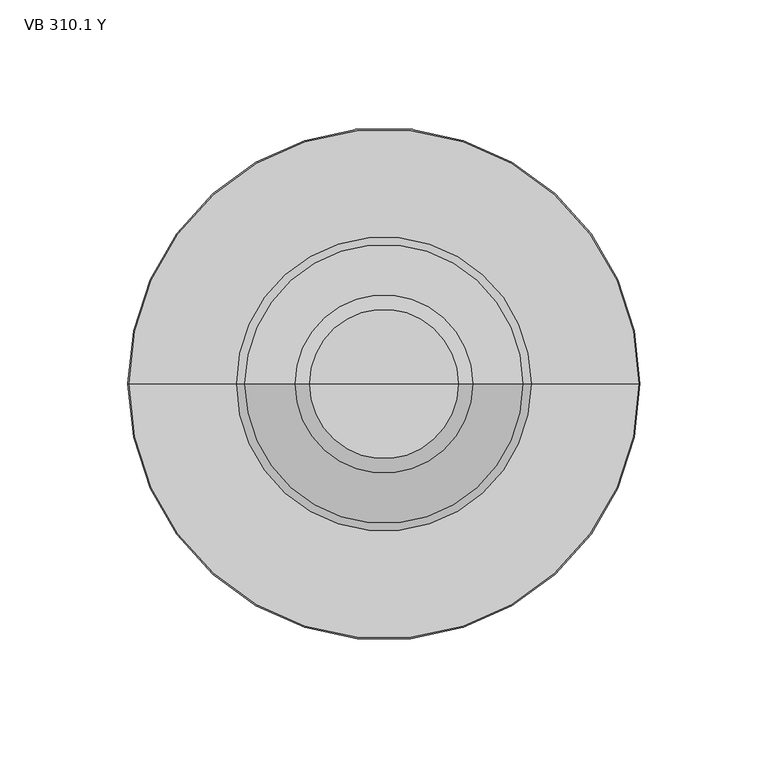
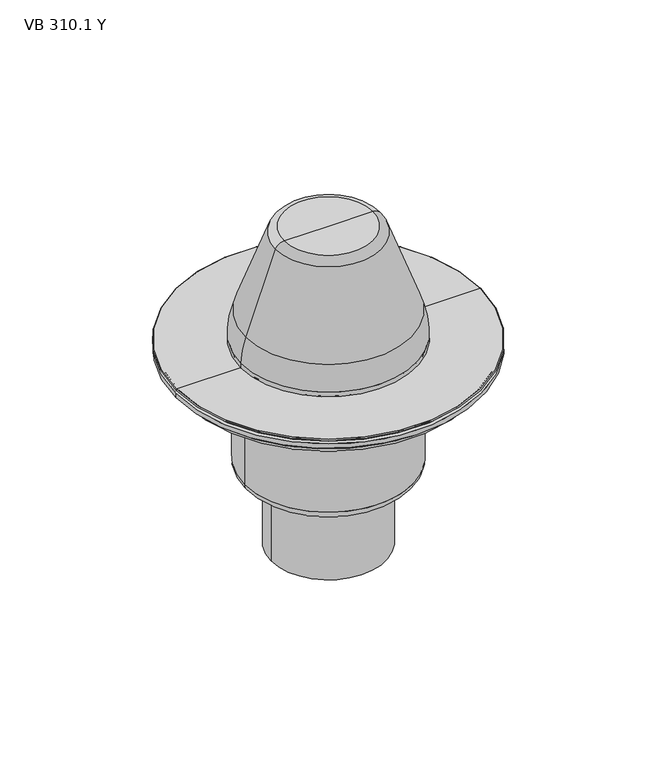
"""IFC4 building model written with IfcOpenShell, lengths in millimetres: flow terminal geometry, BIMLIB_Воронка_Балконная_Fachmann_310СВертикальнымВыпуском : VB 310.1 Y."""

from ifc_helpers import new_model, si_unit, point, frame, origin, origin_with_axes, origin_2d, place, context, project, spatial, polyline, circle_curve, ellipse_curve, trimmed, segment, composite_curve, outline, extrude, source, transform, mapped, element, save
from ifc_brep_helpers import plane_surface, cylinder_surface, revolved_surface, advanced_brep


def vb_310_1_y_fb8227c8(model_context):
    return source(origin(), model_context, "Body", "SolidModel", [
        advanced_brep(
        [(-55.0, 0.0, 6.0), (55.0, 0.0, 6.0), (55.0, 0.0, 3.0), (-55.0, 0.0, 3.0), (-57.5, 0.0, 6.0), (57.5, 0.0, 6.0), (-57.5, 0.0, 8.9740579), (57.5, 0.0, 8.9740579), (0.0, 0.0, 3.0), (-54.484631, 0.0, 26.075065), (54.484631, 0.0, 26.075065), (-34.8385894, 0.0, 80.0521209), (34.8385894, 0.0, 80.0521209), (-29.2004337, 0.0, 84.0), (29.2004337, 0.0, 84.0), (0.0, 0.0, 84.0)],
        [
            (0, 1, circle_curve(frame((0.0, 0.0, 6.0), z_axis=(0.0, 0.0, -1.0), x_axis=(1.0, 0.0, 0.0)), 55.0)),
            (1, 2),
            (2, 3, circle_curve(frame((0.0, 0.0, 3.0), z_axis=(0.0, 0.0, 1.0), x_axis=(1.0, 0.0, 0.0)), 55.0)),
            (3, 0),
            (1, 0, circle_curve(frame((0.0, 0.0, 6.0), z_axis=(0.0, 0.0, -1.0), x_axis=(1.0, 0.0, 0.0)), 55.0)),
            (3, 2, circle_curve(frame((0.0, 0.0, 3.0), z_axis=(0.0, 0.0, 1.0), x_axis=(1.0, 0.0, 0.0)), 55.0)),
            (4, 5, circle_curve(frame((0.0, 0.0, 6.0), z_axis=(0.0, 0.0, -1.0), x_axis=(1.0, 0.0, 0.0)), 57.5)),
            (5, 1),
            (0, 4),
            (5, 4, circle_curve(frame((0.0, 0.0, 6.0), z_axis=(0.0, 0.0, -1.0), x_axis=(1.0, 0.0, 0.0)), 57.5)),
            (6, 7, circle_curve(frame((0.0, 0.0, 8.9740579), z_axis=(0.0, 0.0, -1.0), x_axis=(1.0, 0.0, 0.0)), 57.5)),
            (7, 5),
            (4, 6),
            (7, 6, circle_curve(frame((0.0, 0.0, 8.9740579), z_axis=(0.0, 0.0, -1.0), x_axis=(1.0, 0.0, 0.0)), 57.5)),
            (2, 8),
            (8, 3),
            (9, 10, circle_curve(frame((0.0, 0.0, 26.075065), z_axis=(0.0, 0.0, -1.0), x_axis=(1.0, 0.0, 0.0)), 54.484631)),
            (10, 7, circle_curve(frame((7.5, 0.0, 8.9740579), z_axis=(0.0, 1.0, 0.0), x_axis=(1.0, 0.0, 0.0)), 50.0)),
            (6, 9, circle_curve(frame((-7.5, 0.0, 8.9740579), z_axis=(0.0, 1.0, 0.0), x_axis=(-1.0, 0.0, 0.0)), 50.0)),
            (10, 9, circle_curve(frame((0.0, 0.0, 26.075065), z_axis=(0.0, 0.0, -1.0), x_axis=(1.0, 0.0, 0.0)), 54.484631)),
            (11, 12, circle_curve(frame((0.0, 0.0, 80.0521209), z_axis=(0.0, 0.0, -1.0), x_axis=(1.0, 0.0, 0.0)), 34.8385894)),
            (12, 10),
            (9, 11),
            (12, 11, circle_curve(frame((0.0, 0.0, 80.0521209), z_axis=(0.0, 0.0, -1.0), x_axis=(1.0, 0.0, 0.0)), 34.8385894)),
            (13, 14, circle_curve(frame((0.0, 0.0, 84.0), z_axis=(0.0, 0.0, -1.0), x_axis=(1.0, 0.0, 0.0)), 29.2004337)),
            (14, 12, circle_curve(frame((29.2004337, 0.0, 78.0), z_axis=(0.0, 1.0, 0.0), x_axis=(1.0, 0.0, 0.0)), 6.0)),
            (11, 13, circle_curve(frame((-29.2004337, 0.0, 78.0), z_axis=(0.0, 1.0, 0.0), x_axis=(-1.0, 0.0, 0.0)), 6.0)),
            (14, 13, circle_curve(frame((0.0, 0.0, 84.0), z_axis=(0.0, 0.0, -1.0), x_axis=(1.0, 0.0, 0.0)), 29.2004337)),
            (15, 14),
            (13, 15),
        ],
        [
            cylinder_surface(frame((0.0, 0.0, 2214.3150031), z_axis=(0.0, 0.0, 1.0), x_axis=(1.0, 0.0, 0.0)), 55.0),
            plane_surface(frame((0.0, 0.0, 6.0), z_axis=(0.0, 0.0, -1.0), x_axis=(1.0, 0.0, 0.0))),
            cylinder_surface(frame((0.0, 0.0, 2214.3150031), z_axis=(0.0, 0.0, 1.0), x_axis=(1.0, 0.0, 0.0)), 57.5),
            plane_surface(frame((0.0, 0.0, 3.0), z_axis=(0.0, 0.0, -1.0), x_axis=(1.0, 0.0, 0.0))),
            revolved_surface(trimmed(ellipse_curve(frame((7.5, 0.0, 8.9740579), z_axis=(0.0, -1.0, 0.0), x_axis=(1.0, 0.0, 0.0)), 50.0, 50.0), [point((57.5, 0.0, 8.9740579))], [point((54.484631, 0.0, 26.075065))], True, "CARTESIAN"), (0.0, 0.0, 2214.3150031), (0.0, 0.0, 1.0)),
            revolved_surface(polyline([(54.484631, 0.0, 26.075065), (34.8385894, 0.0, 80.0521209)]), (0.0, 0.0, 2214.3150031), (0.0, 0.0, 1.0)),
            revolved_surface(trimmed(ellipse_curve(frame((29.2004337, 0.0, 78.0), z_axis=(0.0, -1.0, 0.0), x_axis=(1.0, 0.0, 0.0)), 6.0, 6.0), [point((34.8385894, 0.0, 80.0521209))], [point((29.2004337, 0.0, 84.0))], True, "CARTESIAN"), (0.0, 0.0, 2214.3150031), (0.0, 0.0, 1.0)),
            plane_surface(frame((0.0, 0.0, 84.0), z_axis=(0.0, 0.0, 1.0), x_axis=(1.0, 0.0, 0.0))),
        ],
        [
            (0, [[1, 2, 3, 4]]),
            (0, [[5, -4, 6, -2]]),
            (1, [[7, 8, -1, 9]]),
            (1, [[10, -9, -5, -8]]),
            (2, [[11, 12, -7, 13]]),
            (2, [[14, -13, -10, -12]]),
            (3, [[-3, 15, 16]]),
            (3, [[-6, -16, -15]]),
            (4, [[17, 18, -11, 19]]),
            (4, [[20, -19, -14, -18]]),
            (5, [[21, 22, -17, 23]]),
            (5, [[24, -23, -20, -22]]),
            (6, [[25, 26, -21, 27]]),
            (6, [[28, -27, -24, -26]]),
            (7, [[29, -25, 30]]),
            (7, [[-30, -28, -29]]),
        ],
    ),
        advanced_brep(
        [(-57.0, 0.0, 6.0), (57.0, 0.0, 6.0), (99.5, 0.0, 6.0), (-99.5, 0.0, 6.0), (-56.0, 0.0, 5.0), (56.0, 0.0, 5.0), (-56.0, 0.0, 3.0), (56.0, 0.0, 3.0), (-97.5, 0.0, 3.0), (97.5, 0.0, 3.0), (-99.5, 0.0, 5.0), (99.5, 0.0, 5.0)],
        [
            (0, 1, circle_curve(frame((0.0, 0.0, 6.0), z_axis=(0.0, 0.0, -1.0), x_axis=(1.0, 0.0, 0.0)), 57.0)),
            (1, 2),
            (2, 3, circle_curve(frame((0.0, 0.0, 6.0), z_axis=(0.0, 0.0, 1.0), x_axis=(1.0, 0.0, 0.0)), 99.5)),
            (3, 0),
            (1, 0, circle_curve(frame((0.0, 0.0, 6.0), z_axis=(0.0, 0.0, -1.0), x_axis=(1.0, 0.0, 0.0)), 57.0)),
            (3, 2, circle_curve(frame((0.0, 0.0, 6.0), z_axis=(0.0, 0.0, 1.0), x_axis=(1.0, 0.0, 0.0)), 99.5)),
            (4, 5, circle_curve(frame((0.0, 0.0, 5.0), z_axis=(0.0, 0.0, -1.0), x_axis=(1.0, 0.0, 0.0)), 56.0)),
            (5, 1, circle_curve(frame((57.0, 0.0, 5.0), z_axis=(0.0, 1.0, 0.0), x_axis=(1.0, 0.0, 0.0)), 1.0)),
            (0, 4, circle_curve(frame((-57.0, 0.0, 5.0), z_axis=(0.0, 1.0, 0.0), x_axis=(-1.0, 0.0, 0.0)), 1.0)),
            (5, 4, circle_curve(frame((0.0, 0.0, 5.0), z_axis=(0.0, 0.0, -1.0), x_axis=(1.0, 0.0, 0.0)), 56.0)),
            (6, 7, circle_curve(frame((0.0, 0.0, 3.0), z_axis=(0.0, 0.0, -1.0), x_axis=(1.0, 0.0, 0.0)), 56.0)),
            (7, 5),
            (4, 6),
            (7, 6, circle_curve(frame((0.0, 0.0, 3.0), z_axis=(0.0, 0.0, -1.0), x_axis=(1.0, 0.0, 0.0)), 56.0)),
            (8, 9, circle_curve(frame((0.0, 0.0, 3.0), z_axis=(0.0, 0.0, -1.0), x_axis=(1.0, 0.0, 0.0)), 97.5)),
            (9, 7),
            (6, 8),
            (9, 8, circle_curve(frame((0.0, 0.0, 3.0), z_axis=(0.0, 0.0, -1.0), x_axis=(1.0, 0.0, 0.0)), 97.5)),
            (10, 11, circle_curve(frame((0.0, 0.0, 5.0), z_axis=(0.0, 0.0, -1.0), x_axis=(1.0, 0.0, 0.0)), 99.5)),
            (11, 9, circle_curve(frame((99.5, 0.0, 3.0), z_axis=(0.0, -1.0, 0.0), x_axis=(1.0, 0.0, 0.0)), 2.0)),
            (8, 10, circle_curve(frame((-99.5, 0.0, 3.0), z_axis=(0.0, -1.0, 0.0), x_axis=(-1.0, 0.0, 0.0)), 2.0)),
            (11, 10, circle_curve(frame((0.0, 0.0, 5.0), z_axis=(0.0, 0.0, -1.0), x_axis=(1.0, 0.0, 0.0)), 99.5)),
            (2, 11, circle_curve(frame((99.5, 0.0, 5.5), z_axis=(0.0, 1.0, 0.0), x_axis=(1.0, 0.0, 0.0)), 0.5)),
            (10, 3, circle_curve(frame((-99.5, 0.0, 5.5), z_axis=(0.0, 1.0, 0.0), x_axis=(-1.0, 0.0, 0.0)), 0.5)),
        ],
        [
            plane_surface(frame((0.0, 0.0, 6.0), z_axis=(0.0, 0.0, 1.0), x_axis=(1.0, 0.0, 0.0))),
            revolved_surface(trimmed(ellipse_curve(frame((57.0, 0.0, 5.0), z_axis=(0.0, -1.0, 0.0), x_axis=(1.0, 0.0, 0.0)), 1.0, 1.0), [point((57.0, 0.0, 6.0))], [point((56.0, 0.0, 5.0))], True, "CARTESIAN"), (0.0, 0.0, 2214.3150031), (0.0, 0.0, 1.0)),
            revolved_surface(polyline([(56.0, 0.0, 5.0), (56.0, 0.0, 3.0)]), (0.0, 0.0, 2214.3150031), (0.0, 0.0, 1.0)),
            plane_surface(frame((0.0, 0.0, 3.0), z_axis=(0.0, 0.0, -1.0), x_axis=(1.0, 0.0, 0.0))),
            revolved_surface(trimmed(ellipse_curve(frame((99.5, 0.0, 3.0), z_axis=(0.0, 1.0, 0.0), x_axis=(1.0, 0.0, 0.0)), 2.0, 2.0), [point((97.5, 0.0, 3.0))], [point((99.5, 0.0, 5.0))], True, "CARTESIAN"), (0.0, 0.0, 2214.3150031), (0.0, 0.0, 1.0)),
            revolved_surface(trimmed(ellipse_curve(frame((99.5, 0.0, 5.5), z_axis=(0.0, -1.0, 0.0), x_axis=(1.0, 0.0, 0.0)), 0.5, 0.5), [point((99.5, 0.0, 5.0))], [point((99.5, 0.0, 6.0))], True, "CARTESIAN"), (0.0, 0.0, 2214.3150031), (0.0, 0.0, 1.0)),
        ],
        [
            (0, [[1, 2, 3, 4]]),
            (0, [[5, -4, 6, -2]]),
            (1, [[7, 8, -1, 9]]),
            (1, [[10, -9, -5, -8]]),
            (2, [[11, 12, -7, 13]]),
            (2, [[14, -13, -10, -12]]),
            (3, [[15, 16, -11, 17]]),
            (3, [[18, -17, -14, -16]]),
            (4, [[19, 20, -15, 21]]),
            (4, [[22, -21, -18, -20]]),
            (5, [[-3, 23, -19, 24]]),
            (5, [[-6, -24, -22, -23]]),
        ],
    ),
        extrude(outline(composite_curve([segment(trimmed(circle_curve(origin_2d(), 100.0), [point((-100.0, 0.0))], [point((100.0, 0.0))], False, "CARTESIAN"), True, "CONTINUOUS"), segment(trimmed(circle_curve(origin_2d(), 100.0), [point((100.0, 0.0))], [point((-100.0, 0.0))], False, "CARTESIAN"), True, "CONTINUOUS")], self_intersect=False)), origin_with_axes(), (0.0, 0.0, 1.0), 3.0),
        advanced_brep(
        [(-55.0, 0.0, -76.0), (55.0, 0.0, -76.0), (49.0, 0.0, -82.0), (-49.0, 0.0, -82.0), (-55.0, 0.0, -24.0), (55.0, 0.0, -24.0), (-58.0, 0.0, -24.0), (58.0, 0.0, -24.0), (-95.0, 0.0, 0.0), (95.0, 0.0, 0.0), (95.0, 0.0, -4.0), (-95.0, 0.0, -4.0), (0.0, 0.0, 0.0), (0.0, 0.0, -82.0), (-58.0, 0.0, -7.0), (58.0, 0.0, -7.0), (-92.0, 0.0, -7.0), (92.0, 0.0, -7.0)],
        [
            (0, 1, circle_curve(frame((0.0, 0.0, -76.0), z_axis=(0.0, 0.0, -1.0), x_axis=(1.0, 0.0, 0.0)), 55.0)),
            (1, 2, circle_curve(frame((49.0, 0.0, -76.0), z_axis=(0.0, 1.0, 0.0), x_axis=(1.0, 0.0, 0.0)), 6.0)),
            (2, 3, circle_curve(frame((0.0, 0.0, -82.0), z_axis=(0.0, 0.0, 1.0), x_axis=(1.0, 0.0, 0.0)), 49.0)),
            (3, 0, circle_curve(frame((-49.0, 0.0, -76.0), z_axis=(0.0, 1.0, 0.0), x_axis=(-1.0, 0.0, 0.0)), 6.0)),
            (1, 0, circle_curve(frame((0.0, 0.0, -76.0), z_axis=(0.0, 0.0, -1.0), x_axis=(1.0, 0.0, 0.0)), 55.0)),
            (3, 2, circle_curve(frame((0.0, 0.0, -82.0), z_axis=(0.0, 0.0, 1.0), x_axis=(1.0, 0.0, 0.0)), 49.0)),
            (4, 5, circle_curve(frame((0.0, 0.0, -24.0), z_axis=(0.0, 0.0, -1.0), x_axis=(1.0, 0.0, 0.0)), 55.0)),
            (5, 1),
            (0, 4),
            (5, 4, circle_curve(frame((0.0, 0.0, -24.0), z_axis=(0.0, 0.0, -1.0), x_axis=(1.0, 0.0, 0.0)), 55.0)),
            (6, 7, circle_curve(frame((0.0, 0.0, -24.0), z_axis=(0.0, 0.0, -1.0), x_axis=(1.0, 0.0, 0.0)), 58.0)),
            (7, 5),
            (4, 6),
            (7, 6, circle_curve(frame((0.0, 0.0, -24.0), z_axis=(0.0, 0.0, -1.0), x_axis=(1.0, 0.0, 0.0)), 58.0)),
            (8, 9, circle_curve(frame((0.0, 0.0, 0.0), z_axis=(0.0, 0.0, -1.0), x_axis=(1.0, 0.0, 0.0)), 95.0)),
            (9, 10),
            (10, 11, circle_curve(frame((0.0, 0.0, -4.0), z_axis=(0.0, 0.0, 1.0), x_axis=(1.0, 0.0, 0.0)), 95.0)),
            (11, 8),
            (9, 8, circle_curve(frame((0.0, 0.0, 0.0), z_axis=(0.0, 0.0, -1.0), x_axis=(1.0, 0.0, 0.0)), 95.0)),
            (11, 10, circle_curve(frame((0.0, 0.0, -4.0), z_axis=(0.0, 0.0, 1.0), x_axis=(1.0, 0.0, 0.0)), 95.0)),
            (12, 9),
            (8, 12),
            (2, 13),
            (13, 3),
            (14, 15, circle_curve(frame((0.0, 0.0, -7.0), z_axis=(0.0, 0.0, -1.0), x_axis=(1.0, 0.0, 0.0)), 58.0)),
            (15, 7),
            (6, 14),
            (15, 14, circle_curve(frame((0.0, 0.0, -7.0), z_axis=(0.0, 0.0, -1.0), x_axis=(1.0, 0.0, 0.0)), 58.0)),
            (16, 17, circle_curve(frame((0.0, 0.0, -7.0), z_axis=(0.0, 0.0, -1.0), x_axis=(1.0, 0.0, 0.0)), 92.0)),
            (17, 15),
            (14, 16),
            (17, 16, circle_curve(frame((0.0, 0.0, -7.0), z_axis=(0.0, 0.0, -1.0), x_axis=(1.0, 0.0, 0.0)), 92.0)),
            (10, 17, circle_curve(frame((92.0, 0.0, -4.0), z_axis=(0.0, 1.0, 0.0), x_axis=(1.0, 0.0, 0.0)), 3.0)),
            (16, 11, circle_curve(frame((-92.0, 0.0, -4.0), z_axis=(0.0, 1.0, 0.0), x_axis=(-1.0, 0.0, 0.0)), 3.0)),
        ],
        [
            revolved_surface(trimmed(ellipse_curve(frame((49.0, 0.0, -76.0), z_axis=(0.0, -1.0, 0.0), x_axis=(1.0, 0.0, 0.0)), 6.0, 6.0), [point((49.0, 0.0, -82.0))], [point((55.0, 0.0, -76.0))], True, "CARTESIAN"), (0.0, 0.0, 2214.3150031), (0.0, 0.0, 1.0)),
            cylinder_surface(frame((0.0, 0.0, 2214.3150031), z_axis=(0.0, 0.0, 1.0), x_axis=(1.0, 0.0, 0.0)), 55.0),
            plane_surface(frame((0.0, 0.0, -24.0), z_axis=(0.0, 0.0, -1.0), x_axis=(1.0, 0.0, 0.0))),
            cylinder_surface(frame((0.0, 0.0, 2214.3150031), z_axis=(0.0, 0.0, 1.0), x_axis=(1.0, 0.0, 0.0)), 95.0),
            plane_surface(origin_with_axes()),
            plane_surface(frame((0.0, 0.0, -82.0), z_axis=(0.0, 0.0, -1.0), x_axis=(1.0, 0.0, 0.0))),
            cylinder_surface(frame((0.0, 0.0, 2214.3150031), z_axis=(0.0, 0.0, 1.0), x_axis=(1.0, 0.0, 0.0)), 58.0),
            plane_surface(frame((0.0, 0.0, -7.0), z_axis=(0.0, 0.0, -1.0), x_axis=(1.0, 0.0, 0.0))),
            revolved_surface(trimmed(ellipse_curve(frame((92.0, 0.0, -4.0), z_axis=(0.0, -1.0, 0.0), x_axis=(1.0, 0.0, 0.0)), 3.0, 3.0), [point((92.0, 0.0, -7.0))], [point((95.0, 0.0, -4.0))], True, "CARTESIAN"), (0.0, 0.0, 2214.3150031), (0.0, 0.0, 1.0)),
        ],
        [
            (0, [[1, 2, 3, 4]]),
            (0, [[5, -4, 6, -2]]),
            (1, [[7, 8, -1, 9]]),
            (1, [[10, -9, -5, -8]]),
            (2, [[11, 12, -7, 13]]),
            (2, [[14, -13, -10, -12]]),
            (3, [[15, 16, 17, 18]]),
            (3, [[19, -18, 20, -16]]),
            (4, [[21, -15, 22]]),
            (4, [[-22, -19, -21]]),
            (5, [[-3, 23, 24]]),
            (5, [[-6, -24, -23]]),
            (6, [[25, 26, -11, 27]]),
            (6, [[28, -27, -14, -26]]),
            (7, [[29, 30, -25, 31]]),
            (7, [[32, -31, -28, -30]]),
            (8, [[-17, 33, -29, 34]]),
            (8, [[-20, -34, -32, -33]]),
        ],
    ),
        extrude(outline(composite_curve([segment(trimmed(circle_curve(origin_2d(), 25.0), [point((25.0, 0.0))], [point((-25.0, 0.0))], False, "CARTESIAN"), True, "CONTINUOUS"), segment(trimmed(circle_curve(origin_2d(), 25.0), [point((-25.0, 0.0))], [point((25.0, 0.0))], False, "CARTESIAN"), True, "CONTINUOUS")], self_intersect=False), holes=[composite_curve([segment(trimmed(circle_curve(origin_2d(), 22.0), [point((22.0, 0.0))], [point((-22.0, 0.0))], True, "CARTESIAN"), True, "CONTINUOUS"), segment(trimmed(circle_curve(origin_2d(), 22.0), [point((-22.0, 0.0))], [point((22.0, 0.0))], True, "CARTESIAN"), True, "CONTINUOUS")], self_intersect=False)]), frame((0.0, 0.0, -135.0), z_axis=(0.0, 0.0, 1.0), x_axis=(1.0, 0.0, 0.0)), (0.0, 0.0, 1.0), 53.0),
        extrude(outline(composite_curve([segment(trimmed(circle_curve(origin_2d(), 37.5), [point((37.5, 0.0))], [point((-37.5, 0.0))], False, "CARTESIAN"), True, "CONTINUOUS"), segment(trimmed(circle_curve(origin_2d(), 37.5), [point((-37.5, 0.0))], [point((37.5, 0.0))], False, "CARTESIAN"), True, "CONTINUOUS")], self_intersect=False), holes=[composite_curve([segment(trimmed(circle_curve(origin_2d(), 34.5), [point((34.5, 0.0))], [point((-34.5, 0.0))], True, "CARTESIAN"), True, "CONTINUOUS"), segment(trimmed(circle_curve(origin_2d(), 34.5), [point((-34.5, 0.0))], [point((34.5, 0.0))], True, "CARTESIAN"), True, "CONTINUOUS")], self_intersect=False)]), frame((0.0, 0.0, -135.0), z_axis=(0.0, 0.0, 1.0), x_axis=(1.0, 0.0, 0.0)), (0.0, 0.0, 1.0), 53.0),
    ])


if __name__ == "__main__":
    model = new_model("IFC4")
    model_context = context("Model", 3, world=origin())
    ifc_project = project(units=[si_unit("LENGTHUNIT", "METRE", prefix="MILLI")], contexts=[model_context])
    site = spatial("IfcSite", under=ifc_project)
    building = spatial("IfcBuilding", under=site)
    placement = place(None, origin())
    vb_310_1_y_shape = vb_310_1_y_fb8227c8(model_context)
    element("IfcFlowTerminal", 1, ObjectType="BIMLIB_Воронка_Балконная_Fachmann_310СВертикальнымВыпуском : VB 310.1 Y", at=placement, inside=building, context=model_context, shape_type="MappedRepresentation", body=[
        mapped(vb_310_1_y_shape, transform((0.0, 0.0, 0.0), x_axis=(1.0, 0.0, 0.0), y_axis=(0.0, 1.0, 0.0), z_axis=(0.0, 0.0, 1.0))),
    ])
    save(model, "model.ifc")
